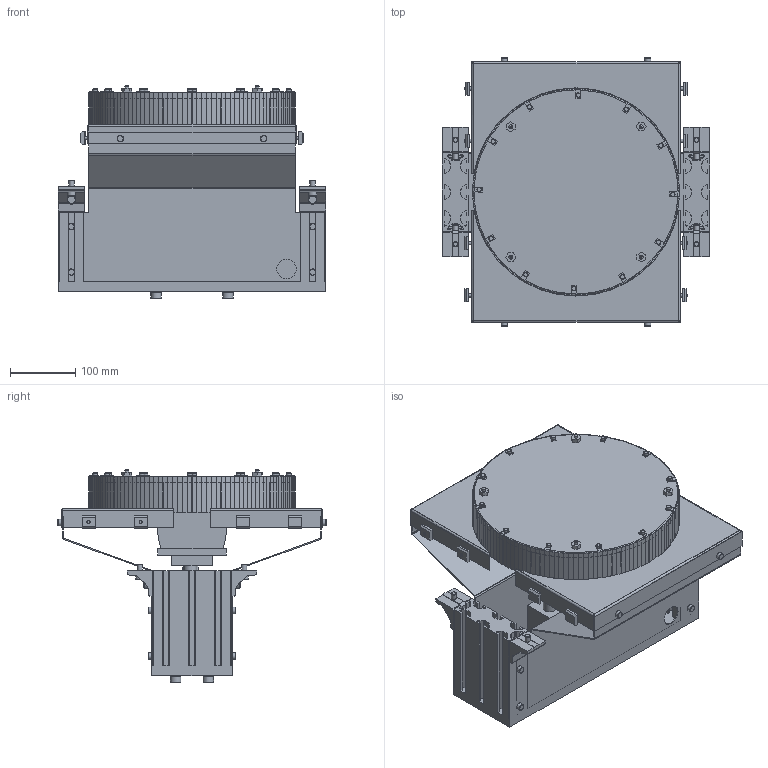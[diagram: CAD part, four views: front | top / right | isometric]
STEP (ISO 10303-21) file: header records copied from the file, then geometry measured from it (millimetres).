
FILE_DESCRIPTION(/* description */ (''),/* implementation_level */ '2;1');
FILE_NAME(/* name */ 'C:\Marketing\01_Versamove-SPU_STEP-Dateien-Homepage\Versamove plus\HDE-400.stp',/* time_stamp */ '2017-02-03T11:18:38+01:00',/* author */ ('herbert.engels'),/* organization */ (''),/* preprocessor_version */ 'ST-DEVELOPER v15.6',/* originating_system */ 'Autodesk Inventor 2015',/* authorisation */ '');
FILE_SCHEMA (('CONFIG_CONTROL_DESIGN'));
Products named in the file (1): HDE-400
Bounding box: 410 x 411.3 x 328 mm (x, y, z)
Volume: 6095424.3 mm3; surface area: 1370224.2 mm2
Topology: 1 solids, 2 shells, 2272 faces, 5379 edges, 3238 vertices
Faces by surface type: plane 1590, cylinder 503, cone 84, torus 81, bspline 12, sphere 2
Full cylindrical faces by diameter (mm): 5 x12, 6 x16, 7 x12, 8 x22, 8.5 x8, 9 x4, 10 x16, 13 x8, 13.5 x8, 15 x2, 15.24 x4, 16 x5, 19.6 x2, 20 x2, 20.917 x1, 22 x4, 30 x2, 59.9 x1, 90 x1, 91 x1
Entity records: 69908 total; most frequent: CARTESIAN_POINT 16393, DIRECTION 10474, ORIENTED_EDGE 10118, EDGE_CURVE 5059, AXIS2_PLACEMENT_3D 3555, LINE 3364, VECTOR 3364, VERTEX_POINT 3168
